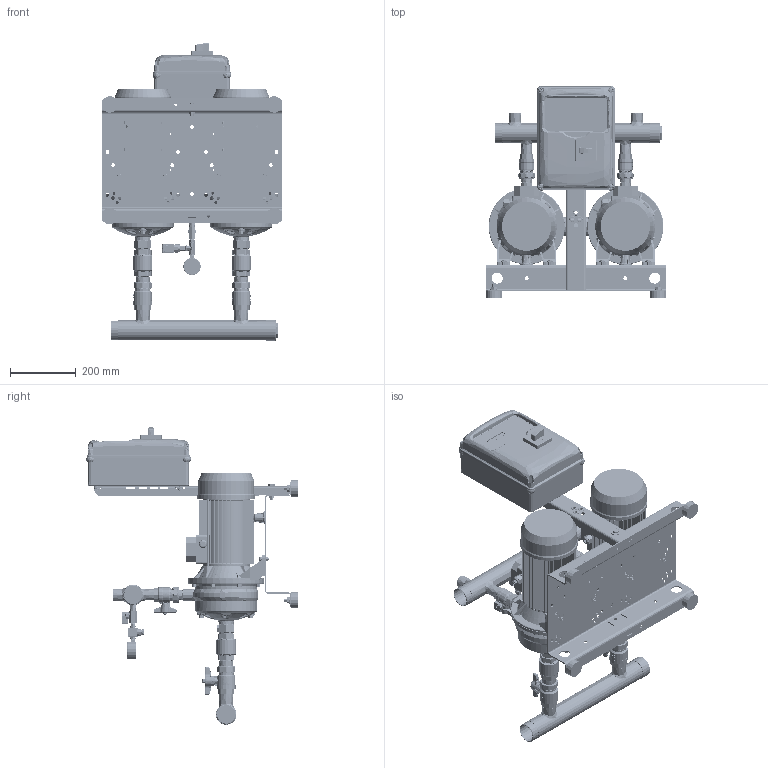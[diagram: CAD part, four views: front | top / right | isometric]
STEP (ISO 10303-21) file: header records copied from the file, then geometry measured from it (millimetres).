
FILE_DESCRIPTION((''),'2;1');
FILE_NAME('2GP_2CDX_120-40_REV5_ASM','2025-02-04T18:37:06',('Utente'),('"Ebara Pumps Europe S.p.A"'),'CREO PARAMETRIC BY PTC INC, 2022124','CREO PARAMETRIC BY PTC INC, 2022124','');
FILE_SCHEMA(('AUTOMOTIVE_DESIGN { 1 0 10303 214 1 1 1 1 }'));
Products named in the file (39): 62508_275562936; CALOTTA_F_A304_DN50_369800820; VAL_INT_MF-B_OTN_CIM346_DN32; VAL_INT_M-F-3_OTN_CIM346_DN32_ASM; VAL-NR-FF-OTN-CIM30-DN32; VAL_NR_F-F_OTN_CIM30_DN32_ASM; NIPPLO-ALIM_OT_DN32_361910051; TAPPO_M_OT_1-2_380000878; 3IEP_2CDX_120-40_IE3; EP_2CDX_120-40_ASM; VAL_INT_MF-B_OTN_CIM346_DN25; VAL_INT_M-F-3_OTN_CIM346_DN25_ASM; RONDEL-P_FE_ZN_UNI6592_M8; DADO_AUTOAGG_M8_ESAG; VITI_TE_ISO4017_M8_L25; 62510_275562942; TAPPO-SALVAFIL_D31; VAL_INT_MF_OTN_CIM012_DN8; NIPPLO_OTG_8_380000861; RACC-T_OTG_DN8_380000880; MAN_RAD_D50_10BAR_361600160; BASE_2GP_I300-B300_DNRV; MONTANTE_H600_271472877; PIEDINO_CIL_369650010; RONDEL-P_FE_ZN_UNI6592_M10; DADI_NORM_ISO4032_FE_ZN_M10; RONDEL-P_ZN_UNI6593_M10X30X2-5; VITI_TE_ISO4017_M10_L45; TRAVERSO_MONT_L200_271472882; RONDEL-P_FE_ZN_UNI6593_M6X18X2; RONDEL-P_FE_ZN_UNI6592_M6; VITI_TE_ISO4017_M6_L20; DADI_NORM_ISO4032_FE_ZN_M6; DADO_AUTOAGG_M10_ESAG; DNRV_2P_I300-B300_H600-Q220X300_ASM; COM_EP-PRO_2T_7-5_KW_362334215; PG_PVC_D10-5_380000891; TRASD_16BAR_460500024; 2GP_2CDX_120-40_REV5_ASM
Assembly tree (83 placements, depth 3):
  2GP_2CDX_120-40_REV5_ASM
    62508_275562936
    CALOTTA_F_A304_DN50_369800820  x2
    VAL_INT_M-F-3_OTN_CIM346_DN32_ASM  x2
      VAL_INT_MF-B_OTN_CIM346_DN32
    VAL_NR_F-F_OTN_CIM30_DN32_ASM  x2
      VAL-NR-FF-OTN-CIM30-DN32
    NIPPLO-ALIM_OT_DN32_361910051  x2
    TAPPO_M_OT_1-2_380000878  x2
    EP_2CDX_120-40_ASM  x2
      3IEP_2CDX_120-40_IE3
    VAL_INT_M-F-3_OTN_CIM346_DN25_ASM  x2
      VAL_INT_MF-B_OTN_CIM346_DN25
    RONDEL-P_FE_ZN_UNI6592_M8  x4
    DADO_AUTOAGG_M8_ESAG  x4
    VITI_TE_ISO4017_M8_L25  x4
    62510_275562942
    TAPPO-SALVAFIL_D31  x2
    VAL_INT_MF_OTN_CIM012_DN8
    NIPPLO_OTG_8_380000861
    RACC-T_OTG_DN8_380000880
    MAN_RAD_D50_10BAR_361600160
    DNRV_2P_I300-B300_H600-Q220X300_ASM
      BASE_2GP_I300-B300_DNRV
      MONTANTE_H600_271472877
      PIEDINO_CIL_369650010  x4
      RONDEL-P_FE_ZN_UNI6592_M10  x4
      DADI_NORM_ISO4032_FE_ZN_M10  x4
      RONDEL-P_ZN_UNI6593_M10X30X2-5
      VITI_TE_ISO4017_M10_L45
      TRAVERSO_MONT_L200_271472882  x2
      RONDEL-P_FE_ZN_UNI6593_M6X18X2  x8
      RONDEL-P_FE_ZN_UNI6592_M6  x4
      VITI_TE_ISO4017_M6_L20  x4
      DADI_NORM_ISO4032_FE_ZN_M6  x4
      DADO_AUTOAGG_M10_ESAG
    COM_EP-PRO_2T_7-5_KW_362334215
    PG_PVC_D10-5_380000891  x3
    TRASD_16BAR_460500024
Bounding box: 550 x 644.45 x 905.45 mm (x, y, z)
Volume: 16565373.2 mm3; surface area: 3686226.6 mm2
Topology: 1351 solids, 1484 shells, 21146 faces, 53637 edges, 35662 vertices
Faces by surface type: plane 14042, cylinder 3199, cone 1320, extrusion 943, bspline 881, torus 648, sphere 111, revolution 2
Entity records: 941845 total; most frequent: CARTESIAN_POINT 294956, ORIENTED_EDGE 79629, DIRECTION 74501, PRESENTATION_STYLE_ASSIGNMENT 51393, STYLED_ITEM 41924, EDGE_CURVE 40778, CURVE_STYLE 38216, VECTOR 30068
